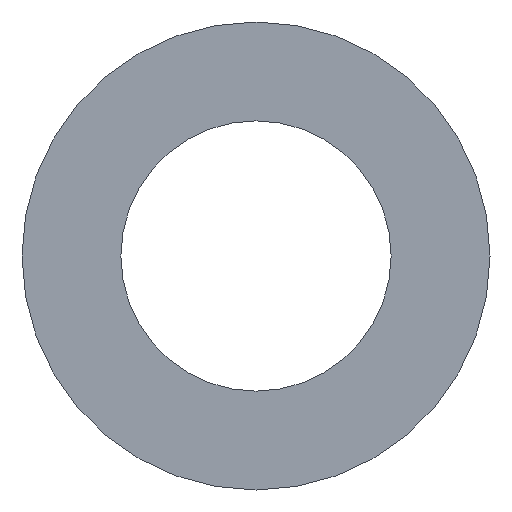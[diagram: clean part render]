
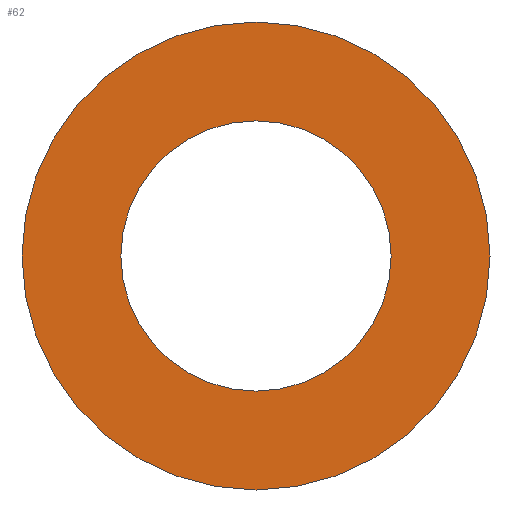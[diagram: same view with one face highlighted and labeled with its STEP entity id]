
A CAD part, front view. The second image highlights one B-rep face of the part: STEP entity #62.
In plain terms, the highlighted planar face has unit normal (0, -1, 0).
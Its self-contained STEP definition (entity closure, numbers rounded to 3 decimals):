
#20=PLANE('',#83);
#26=ORIENTED_EDGE('',*,*,#30,.T.);
#27=ORIENTED_EDGE('',*,*,#32,.F.);
#30=EDGE_CURVE('',#34,#34,#38,.T.);
#32=EDGE_CURVE('',#36,#36,#40,.T.);
#34=VERTEX_POINT('',#106);
#36=VERTEX_POINT('',#111);
#38=CIRCLE('',#78,115.5);
#40=CIRCLE('',#81,200.);
#46=EDGE_LOOP('',(#26));
#47=EDGE_LOOP('',(#27));
#54=FACE_BOUND('',#46,.T.);
#55=FACE_BOUND('',#47,.T.);
#62=ADVANCED_FACE('',(#54,#55),#20,.F.);
#78=AXIS2_PLACEMENT_3D('',#105,#89,#90);
#81=AXIS2_PLACEMENT_3D('',#110,#95,#96);
#83=AXIS2_PLACEMENT_3D('',#114,#99,#100);
#89=DIRECTION('',(0.,1.,0.));
#90=DIRECTION('',(1.,0.,0.));
#95=DIRECTION('',(0.,1.,0.));
#96=DIRECTION('',(1.,0.,0.));
#99=DIRECTION('',(0.,1.,0.));
#100=DIRECTION('',(0.,0.,1.));
#105=CARTESIAN_POINT('',(0.,-1.5,0.));
#106=CARTESIAN_POINT('',(115.5,-1.5,0.));
#110=CARTESIAN_POINT('',(0.,-1.5,0.));
#111=CARTESIAN_POINT('',(200.,-1.5,0.));
#114=CARTESIAN_POINT('',(0.,-1.5,0.));
